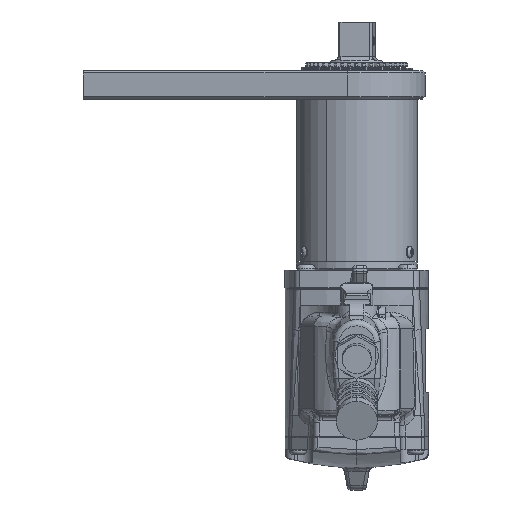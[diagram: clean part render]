
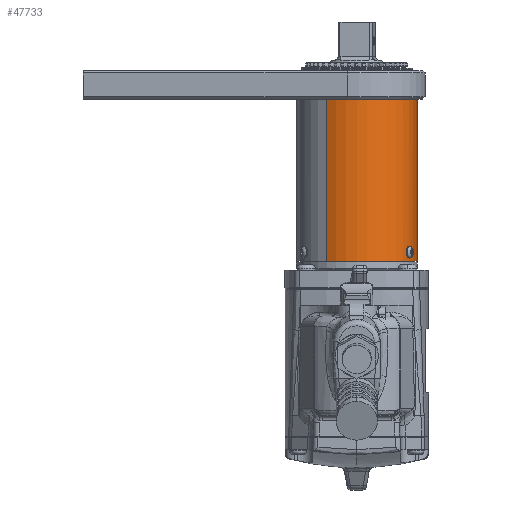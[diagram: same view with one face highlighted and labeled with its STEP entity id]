
A CAD part, front view. The second image highlights one B-rep face of the part: STEP entity #47733.
In plain terms, the highlighted cylindrical face has radius 33.655 mm (diameter 67.31 mm), a partial arc.
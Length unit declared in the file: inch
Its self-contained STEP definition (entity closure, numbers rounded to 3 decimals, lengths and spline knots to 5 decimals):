
#61 = CARTESIAN_POINT ( 'NONE',  ( 1.12745, -0.69605, -3.7385 ) ) ;
#158 = CARTESIAN_POINT ( 'NONE',  ( 1.1298, -0.69224, -3.7409 ) ) ;
#258 = CARTESIAN_POINT ( 'NONE',  ( 1.13471, -0.68416, -3.74481 ) ) ;
#285 = CARTESIAN_POINT ( 'NONE',  ( 1.13726, -0.67991, -3.74631 ) ) ;
#406 = CARTESIAN_POINT ( 'NONE',  ( 1.14748, -0.6625, -3.7488 ) ) ;
#595 = EDGE_CURVE ( 'NONE', #27501, #12210, #51310, .T. ) ;
#614 = CARTESIAN_POINT ( 'NONE',  ( 1.14491, -0.66696, -3.7488 ) ) ;
#1941 = CARTESIAN_POINT ( 'NONE',  ( 1.14235, -0.67134, -3.7483 ) ) ;
#2302 = EDGE_CURVE ( 'NONE', #34115, #38282, #103382, .T. ) ;
#2596 = CARTESIAN_POINT ( 'NONE',  ( 0., 0., -3.8758 ) ) ;
#2770 = EDGE_CURVE ( 'NONE', #34115, #27501, #96669, .T. ) ;
#3514 = EDGE_CURVE ( 'NONE', #38282, #12210, #83676, .T. ) ;
#3967 = EDGE_CURVE ( 'NONE', #35900, #30023, #44708, .T. ) ;
#4905 = EDGE_CURVE ( 'NONE', #30023, #35900, #43374, .T. ) ;
#7474 = CARTESIAN_POINT ( 'NONE',  ( 1.14748, -0.6625, -3.7488 ) ) ;
#12210 = VERTEX_POINT ( 'NONE', #83674 ) ;
#14727 = FACE_OUTER_BOUND ( 'NONE', #93742, .T. ) ;
#23530 = ORIENTED_EDGE ( 'NONE', *, *, #2302, .T. ) ;
#23713 = CARTESIAN_POINT ( 'NONE',  ( 0.6625, 1.14748, -0.2933 ) ) ;
#23800 = CARTESIAN_POINT ( 'NONE',  ( 1.10677, -0.72848, -3.66059 ) ) ;
#27161 = CARTESIAN_POINT ( 'NONE',  ( 1.14747, -0.66252, -3.5928 ) ) ;
#27501 = VERTEX_POINT ( 'NONE', #95391 ) ;
#30023 = VERTEX_POINT ( 'NONE', #27161 ) ;
#34115 = VERTEX_POINT ( 'NONE', #71065 ) ;
#35482 = DIRECTION ( 'NONE',  ( -0.5, -0.866, 0. ) ) ;
#35576 = DIRECTION ( 'NONE',  ( 0., 0., -1. ) ) ;
#35710 = CARTESIAN_POINT ( 'NONE',  ( 0., 0., -0.2933 ) ) ;
#35900 = VERTEX_POINT ( 'NONE', #7474 ) ;
#38282 = VERTEX_POINT ( 'NONE', #23713 ) ;
#40694 = CARTESIAN_POINT ( 'NONE',  ( 1.11214, -0.72026, -3.63171 ) ) ;
#43374 = B_SPLINE_CURVE_WITH_KNOTS ( 'NONE', 3,
 ( #59010, #59332, #58920, #58800, #58782, #58663, #58643, #58567, #58450, #58433, #58324, #58300, #58220, #58098, #58083, #57973, #57948, #57863, #57745, #57728, #57613, #57592, #57506, #57387, #57371, #57259, #57240, #57154 ),
 .UNSPECIFIED., .F., .F.,
 ( 4, 2, 2, 2, 2, 2, 2, 2, 2, 2, 2, 2, 2, 4 ),
 ( 0.00619, 0.00697, 0.00774, 0.00813, 0.00852, 0.0089, 0.00929, 0.00968, 0.01007, 0.01045, 0.01084, 0.01123, 0.01162, 0.01239 ),
 .UNSPECIFIED. ) ;
#43664 = DIRECTION ( 'NONE',  ( 0.5, 0.866, 0. ) ) ;
#44708 = B_SPLINE_CURVE_WITH_KNOTS ( 'NONE', 3,
 ( #406, #614, #1941, #285, #258, #158, #61, #102654, #102422, #93546, #98248, #93697, #77441, #92793, #23800, #91291, #90277, #88896, #40694, #86827, #84791, #83791, #83514, #83333, #80941, #67199, #80040, #78815, #77674, #74971 ),
 .UNSPECIFIED., .F., .F.,
 ( 4, 2, 2, 2, 2, 2, 2, 2, 2, 2, 2, 2, 2, 2, 4 ),
 ( 0., 0.00039, 0.00077, 0.00116, 0.00155, 0.00232, 0.0031, 0.00348, 0.00387, 0.00426, 0.00465, 0.00503, 0.00542, 0.00581, 0.00619 ),
 .UNSPECIFIED. ) ;
#47733 = ADVANCED_FACE ( 'NONE', ( #14727, #98113 ), #66908, .T. ) ;
#51310 = LINE ( 'NONE', #66043, #96438 ) ;
#51644 = ORIENTED_EDGE ( 'NONE', *, *, #4905, .T. ) ;
#55923 = AXIS2_PLACEMENT_3D ( 'NONE', #77754, #77646, #77535 ) ;
#57154 = CARTESIAN_POINT ( 'NONE',  ( 1.14748, -0.6625, -3.7488 ) ) ;
#57240 = CARTESIAN_POINT ( 'NONE',  ( 1.15264, -0.65357, -3.7488 ) ) ;
#57259 = CARTESIAN_POINT ( 'NONE',  ( 1.15765, -0.64464, -3.74673 ) ) ;
#57371 = CARTESIAN_POINT ( 'NONE',  ( 1.16441, -0.63229, -3.74088 ) ) ;
#57387 = CARTESIAN_POINT ( 'NONE',  ( 1.16657, -0.62829, -3.73845 ) ) ;
#57506 = CARTESIAN_POINT ( 'NONE',  ( 1.17059, -0.62078, -3.73274 ) ) ;
#57592 = CARTESIAN_POINT ( 'NONE',  ( 1.17242, -0.61731, -3.72951 ) ) ;
#57613 = CARTESIAN_POINT ( 'NONE',  ( 1.17575, -0.61093, -3.72231 ) ) ;
#57728 = CARTESIAN_POINT ( 'NONE',  ( 1.17727, -0.60801, -3.71829 ) ) ;
#57745 = CARTESIAN_POINT ( 'NONE',  ( 1.17985, -0.60298, -3.70981 ) ) ;
#57863 = CARTESIAN_POINT ( 'NONE',  ( 1.18094, -0.60084, -3.70533 ) ) ;
#57948 = CARTESIAN_POINT ( 'NONE',  ( 1.18271, -0.59735, -3.69587 ) ) ;
#57973 = CARTESIAN_POINT ( 'NONE',  ( 1.18338, -0.59601, -3.69093 ) ) ;
#58083 = CARTESIAN_POINT ( 'NONE',  ( 1.18427, -0.59425, -3.68096 ) ) ;
#58098 = CARTESIAN_POINT ( 'NONE',  ( 1.1845, -0.5938, -3.67587 ) ) ;
#58220 = CARTESIAN_POINT ( 'NONE',  ( 1.18449, -0.59381, -3.66558 ) ) ;
#58300 = CARTESIAN_POINT ( 'NONE',  ( 1.18426, -0.59426, -3.66051 ) ) ;
#58324 = CARTESIAN_POINT ( 'NONE',  ( 1.18337, -0.59604, -3.65054 ) ) ;
#58433 = CARTESIAN_POINT ( 'NONE',  ( 1.18269, -0.59739, -3.64558 ) ) ;
#58450 = CARTESIAN_POINT ( 'NONE',  ( 1.18091, -0.60089, -3.63615 ) ) ;
#58567 = CARTESIAN_POINT ( 'NONE',  ( 1.17982, -0.60304, -3.63167 ) ) ;
#58643 = CARTESIAN_POINT ( 'NONE',  ( 1.17723, -0.60809, -3.62319 ) ) ;
#58663 = CARTESIAN_POINT ( 'NONE',  ( 1.17571, -0.61102, -3.61919 ) ) ;
#58782 = CARTESIAN_POINT ( 'NONE',  ( 1.1707, -0.62059, -3.60841 ) ) ;
#58800 = CARTESIAN_POINT ( 'NONE',  ( 1.16661, -0.62828, -3.6026 ) ) ;
#58920 = CARTESIAN_POINT ( 'NONE',  ( 1.15758, -0.64476, -3.59484 ) ) ;
#59010 = CARTESIAN_POINT ( 'NONE',  ( 1.14747, -0.66252, -3.5928 ) ) ;
#59332 = CARTESIAN_POINT ( 'NONE',  ( 1.15256, -0.65371, -3.5928 ) ) ;
#62661 = ORIENTED_EDGE ( 'NONE', *, *, #2770, .F. ) ;
#64452 = DIRECTION ( 'NONE',  ( 0., 0., 1. ) ) ;
#66043 = CARTESIAN_POINT ( 'NONE',  ( -0.6625, -1.14748, -3.8758 ) ) ;
#66908 = CYLINDRICAL_SURFACE ( 'NONE', #97996, 1.325 ) ;
#67199 = CARTESIAN_POINT ( 'NONE',  ( 1.13471, -0.68416, -3.59679 ) ) ;
#69903 = ORIENTED_EDGE ( 'NONE', *, *, #595, .F. ) ;
#70533 = ORIENTED_EDGE ( 'NONE', *, *, #3967, .T. ) ;
#71065 = CARTESIAN_POINT ( 'NONE',  ( 0.6625, 1.14748, -3.8758 ) ) ;
#73803 = ORIENTED_EDGE ( 'NONE', *, *, #3514, .T. ) ;
#74971 = CARTESIAN_POINT ( 'NONE',  ( 1.14747, -0.66252, -3.5928 ) ) ;
#77441 = CARTESIAN_POINT ( 'NONE',  ( 1.1065, -0.7289, -3.68102 ) ) ;
#77535 = DIRECTION ( 'NONE',  ( -0.5, -0.866, 0. ) ) ;
#77646 = DIRECTION ( 'NONE',  ( 0., 0., -1. ) ) ;
#77674 = CARTESIAN_POINT ( 'NONE',  ( 1.14492, -0.66693, -3.5928 ) ) ;
#77754 = CARTESIAN_POINT ( 'NONE',  ( 0., 0., -3.8758 ) ) ;
#78815 = CARTESIAN_POINT ( 'NONE',  ( 1.14231, -0.6714, -3.59331 ) ) ;
#80040 = CARTESIAN_POINT ( 'NONE',  ( 1.13722, -0.67999, -3.59531 ) ) ;
#80941 = CARTESIAN_POINT ( 'NONE',  ( 1.1298, -0.69224, -3.60071 ) ) ;
#82148 = DIRECTION ( 'NONE',  ( 0., 0., 1. ) ) ;
#83333 = CARTESIAN_POINT ( 'NONE',  ( 1.12741, -0.69612, -3.60315 ) ) ;
#83514 = CARTESIAN_POINT ( 'NONE',  ( 1.12295, -0.7033, -3.6088 ) ) ;
#83674 = CARTESIAN_POINT ( 'NONE',  ( -0.6625, -1.14748, -0.2933 ) ) ;
#83676 = CIRCLE ( 'NONE', #88314, 1.325 ) ;
#83791 = CARTESIAN_POINT ( 'NONE',  ( 1.12085, -0.70664, -3.61203 ) ) ;
#84791 = CARTESIAN_POINT ( 'NONE',  ( 1.11695, -0.71279, -3.61932 ) ) ;
#86827 = CARTESIAN_POINT ( 'NONE',  ( 1.11521, -0.71551, -3.62326 ) ) ;
#88314 = AXIS2_PLACEMENT_3D ( 'NONE', #35710, #35576, #35482 ) ;
#88896 = CARTESIAN_POINT ( 'NONE',  ( 1.11081, -0.72231, -3.63627 ) ) ;
#89352 = CARTESIAN_POINT ( 'NONE',  ( 0.6625, 1.14748, -3.8758 ) ) ;
#90245 = DIRECTION ( 'NONE',  ( 0., 0., 1. ) ) ;
#90277 = CARTESIAN_POINT ( 'NONE',  ( 1.10868, -0.72558, -3.64572 ) ) ;
#91291 = CARTESIAN_POINT ( 'NONE',  ( 1.10787, -0.72681, -3.65058 ) ) ;
#92793 = CARTESIAN_POINT ( 'NONE',  ( 1.10649, -0.7289, -3.66575 ) ) ;
#93546 = CARTESIAN_POINT ( 'NONE',  ( 1.11505, -0.71578, -3.71876 ) ) ;
#93697 = CARTESIAN_POINT ( 'NONE',  ( 1.10763, -0.72718, -3.69128 ) ) ;
#93742 = EDGE_LOOP ( 'NONE', ( #69903, #62661, #23530, #73803 ) ) ;
#95391 = CARTESIAN_POINT ( 'NONE',  ( -0.6625, -1.14748, -3.8758 ) ) ;
#96438 = VECTOR ( 'NONE', #64452, 39.37008 ) ;
#96669 = CIRCLE ( 'NONE', #55923, 1.325 ) ;
#97996 = AXIS2_PLACEMENT_3D ( 'NONE', #2596, #82148, #43664 ) ;
#98113 = FACE_BOUND ( 'NONE', #102505, .T. ) ;
#98248 = CARTESIAN_POINT ( 'NONE',  ( 1.11189, -0.72066, -3.71006 ) ) ;
#102422 = CARTESIAN_POINT ( 'NONE',  ( 1.12084, -0.70666, -3.72955 ) ) ;
#102505 = EDGE_LOOP ( 'NONE', ( #70533, #51644 ) ) ;
#102654 = CARTESIAN_POINT ( 'NONE',  ( 1.12298, -0.70326, -3.73284 ) ) ;
#102893 = VECTOR ( 'NONE', #90245, 39.37008 ) ;
#103382 = LINE ( 'NONE', #89352, #102893 ) ;
